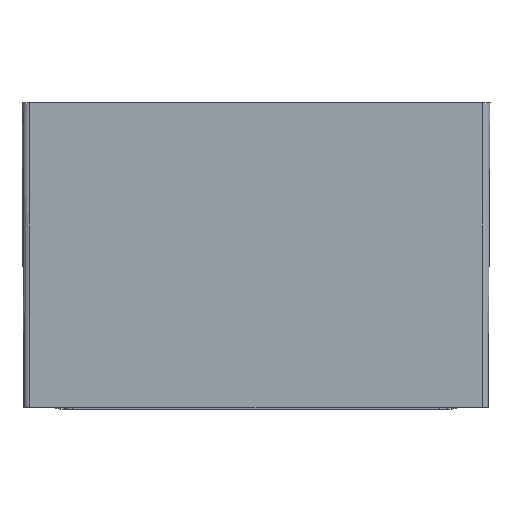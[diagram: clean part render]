
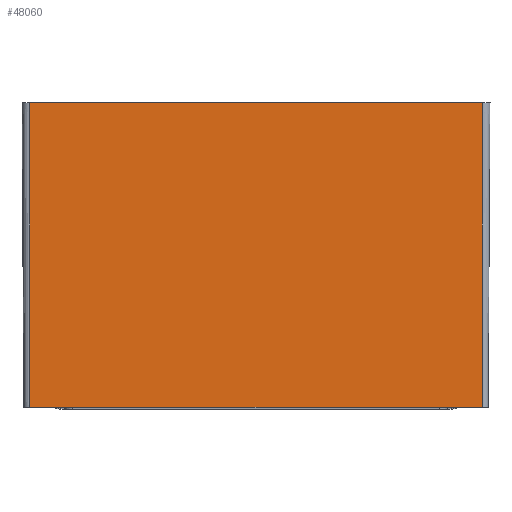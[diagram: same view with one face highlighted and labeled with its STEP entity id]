
A CAD part, front view. The second image highlights one B-rep face of the part: STEP entity #48060.
In plain terms, the highlighted planar face has unit normal (0, -1, -0.006).
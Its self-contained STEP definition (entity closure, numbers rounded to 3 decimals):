
#10751=FACE_OUTER_BOUND('',#13732,.T.);
#13732=EDGE_LOOP('',(#42817,#42818,#42819,#42820));
#15520=LINE('',#156434,#17523);
#15521=LINE('',#156438,#17524);
#15522=LINE('',#156442,#17525);
#15523=LINE('',#156443,#17526);
#17523=VECTOR('',#64080,10.);
#17524=VECTOR('',#64085,10.);
#17525=VECTOR('',#64090,10.);
#17526=VECTOR('',#64091,10.);
#21984=VERTEX_POINT('',#156431);
#21985=VERTEX_POINT('',#156433);
#21986=VERTEX_POINT('',#156437);
#21987=VERTEX_POINT('',#156441);
#29045=EDGE_CURVE('',#21984,#21985,#15520,.T.);
#29047=EDGE_CURVE('',#21985,#21986,#15521,.T.);
#29049=EDGE_CURVE('',#21987,#21984,#15522,.T.);
#29050=EDGE_CURVE('',#21987,#21986,#15523,.F.);
#42817=ORIENTED_EDGE('',*,*,#29047,.F.);
#42818=ORIENTED_EDGE('',*,*,#29045,.F.);
#42819=ORIENTED_EDGE('',*,*,#29049,.F.);
#42820=ORIENTED_EDGE('',*,*,#29050,.T.);
#45340=PLANE('',#53178);
#48060=ADVANCED_FACE('',(#10751),#45340,.T.);
#53178=AXIS2_PLACEMENT_3D('',#156440,#64088,#64089);
#64080=DIRECTION('',(1.,0.,0.));
#64085=DIRECTION('',(0.,0.006,-1.));
#64088=DIRECTION('center_axis',(0.,-1.,-0.006));
#64089=DIRECTION('ref_axis',(1.,0.,0.));
#64090=DIRECTION('',(0.,-0.006,1.));
#64091=DIRECTION('',(-1.,0.,0.));
#156431=CARTESIAN_POINT('',(-59.109,-19.459,79.5));
#156433=CARTESIAN_POINT('',(59.109,-19.459,79.5));
#156434=CARTESIAN_POINT('',(-61.109,-19.459,79.5));
#156437=CARTESIAN_POINT('',(59.109,-18.973,0.));
#156438=CARTESIAN_POINT('',(59.109,-18.973,0.001));
#156440=CARTESIAN_POINT('Origin',(-61.109,-18.973,0.001));
#156441=CARTESIAN_POINT('',(-59.109,-18.973,0.));
#156442=CARTESIAN_POINT('',(-59.109,-18.973,0.001));
#156443=CARTESIAN_POINT('',(-30.555,-18.973,0.));
